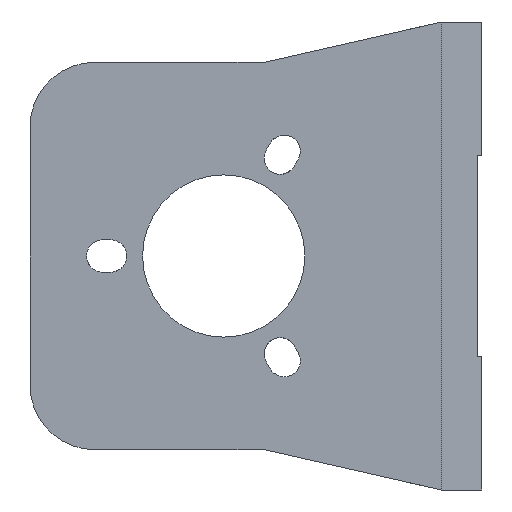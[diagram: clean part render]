
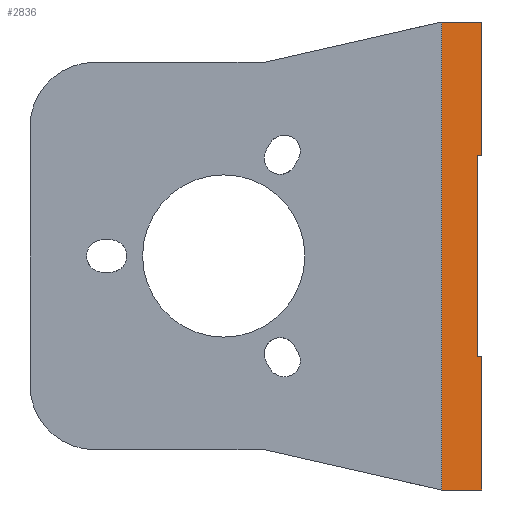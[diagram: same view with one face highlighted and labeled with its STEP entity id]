
A CAD part, front view. The second image highlights one B-rep face of the part: STEP entity #2836.
In plain terms, the highlighted planar face has unit normal (0.707, -0.707, 0).
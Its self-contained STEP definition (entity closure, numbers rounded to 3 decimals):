
#88 = CARTESIAN_POINT ( 'NONE',  ( 0., 5., 29. ) ) ;
#152 = VECTOR ( 'NONE', #677, 1000. ) ;
#159 = CARTESIAN_POINT ( 'NONE',  ( -0.5, 4.5, -12.5 ) ) ;
#181 = EDGE_CURVE ( 'NONE', #2943, #6193, #1040, .T. ) ;
#346 = AXIS2_PLACEMENT_3D ( 'NONE', #2505, #6674, #3105 ) ;
#550 = ORIENTED_EDGE ( 'NONE', *, *, #181, .T. ) ;
#677 = DIRECTION ( 'NONE',  ( -0.707, -0.707, 0. ) ) ;
#921 = EDGE_CURVE ( 'NONE', #7075, #2943, #1146, .T. ) ;
#1001 = CARTESIAN_POINT ( 'NONE',  ( -0.5, 4.5, 12.5 ) ) ;
#1040 = LINE ( 'NONE', #4969, #3832 ) ;
#1146 = LINE ( 'NONE', #2848, #7080 ) ;
#1182 = ORIENTED_EDGE ( 'NONE', *, *, #921, .T. ) ;
#1220 = EDGE_CURVE ( 'NONE', #4309, #4023, #2436, .T. ) ;
#1270 = ORIENTED_EDGE ( 'NONE', *, *, #4836, .T. ) ;
#1332 = EDGE_CURVE ( 'NONE', #2521, #2994, #6243, .T. ) ;
#1435 = CARTESIAN_POINT ( 'NONE',  ( -0.5, 4.5, -12.5 ) ) ;
#1735 = LINE ( 'NONE', #1435, #3110 ) ;
#1746 = LINE ( 'NONE', #88, #152 ) ;
#1971 = EDGE_CURVE ( 'NONE', #2994, #6108, #4104, .T. ) ;
#2174 = DIRECTION ( 'NONE',  ( 0.707, 0.707, 0. ) ) ;
#2254 = CARTESIAN_POINT ( 'NONE',  ( 0., 5., 12.5 ) ) ;
#2256 = VECTOR ( 'NONE', #3514, 1000. ) ;
#2436 = LINE ( 'NONE', #6463, #2256 ) ;
#2439 = ORIENTED_EDGE ( 'NONE', *, *, #1332, .T. ) ;
#2505 = CARTESIAN_POINT ( 'NONE',  ( -2.5, 2.5, 0. ) ) ;
#2521 = VERTEX_POINT ( 'NONE', #1001 ) ;
#2584 = CARTESIAN_POINT ( 'NONE',  ( -5., 0., -29. ) ) ;
#2836 = ADVANCED_FACE ( 'NONE', ( #6288 ), #5495, .T. ) ;
#2848 = CARTESIAN_POINT ( 'NONE',  ( 0., 5., -29. ) ) ;
#2943 = VERTEX_POINT ( 'NONE', #4970 ) ;
#2994 = VERTEX_POINT ( 'NONE', #6329 ) ;
#3104 = ORIENTED_EDGE ( 'NONE', *, *, #7687, .T. ) ;
#3105 = DIRECTION ( 'NONE',  ( 0., 0., -1. ) ) ;
#3110 = VECTOR ( 'NONE', #4384, 1000. ) ;
#3169 = EDGE_LOOP ( 'NONE', ( #3624, #3104, #1182, #550, #1270, #2439, #3482, #7255 ) ) ;
#3292 = VECTOR ( 'NONE', #2174, 1000. ) ;
#3482 = ORIENTED_EDGE ( 'NONE', *, *, #1971, .T. ) ;
#3514 = DIRECTION ( 'NONE',  ( 0., 0., -1. ) ) ;
#3624 = ORIENTED_EDGE ( 'NONE', *, *, #1220, .T. ) ;
#3755 = DIRECTION ( 'NONE',  ( 0.707, 0.707, 0. ) ) ;
#3787 = DIRECTION ( 'NONE',  ( -0.707, -0.707, 0. ) ) ;
#3832 = VECTOR ( 'NONE', #3787, 1000. ) ;
#4023 = VERTEX_POINT ( 'NONE', #2584 ) ;
#4104 = LINE ( 'NONE', #2254, #7065 ) ;
#4309 = VERTEX_POINT ( 'NONE', #5965 ) ;
#4384 = DIRECTION ( 'NONE',  ( 0., 0., 1. ) ) ;
#4533 = CARTESIAN_POINT ( 'NONE',  ( -5., 0., -29. ) ) ;
#4819 = CARTESIAN_POINT ( 'NONE',  ( 0., 5., -29. ) ) ;
#4836 = EDGE_CURVE ( 'NONE', #6193, #2521, #1735, .T. ) ;
#4969 = CARTESIAN_POINT ( 'NONE',  ( 0., 5., -12.5 ) ) ;
#4970 = CARTESIAN_POINT ( 'NONE',  ( 0., 5., -12.5 ) ) ;
#5495 = PLANE ( 'NONE',  #346 ) ;
#5541 = CARTESIAN_POINT ( 'NONE',  ( -0.5, 4.5, 12.5 ) ) ;
#5781 = CARTESIAN_POINT ( 'NONE',  ( 0., 5., 29. ) ) ;
#5820 = DIRECTION ( 'NONE',  ( 0., 0., 1. ) ) ;
#5856 = DIRECTION ( 'NONE',  ( 0., 0., 1. ) ) ;
#5965 = CARTESIAN_POINT ( 'NONE',  ( -5., 0., 29. ) ) ;
#6108 = VERTEX_POINT ( 'NONE', #5781 ) ;
#6193 = VERTEX_POINT ( 'NONE', #159 ) ;
#6243 = LINE ( 'NONE', #5541, #7623 ) ;
#6288 = FACE_OUTER_BOUND ( 'NONE', #3169, .T. ) ;
#6329 = CARTESIAN_POINT ( 'NONE',  ( 0., 5., 12.5 ) ) ;
#6451 = LINE ( 'NONE', #4533, #3292 ) ;
#6463 = CARTESIAN_POINT ( 'NONE',  ( -5., 0., 29. ) ) ;
#6602 = EDGE_CURVE ( 'NONE', #6108, #4309, #1746, .T. ) ;
#6674 = DIRECTION ( 'NONE',  ( 0.707, -0.707, 0. ) ) ;
#7065 = VECTOR ( 'NONE', #5820, 1000. ) ;
#7075 = VERTEX_POINT ( 'NONE', #4819 ) ;
#7080 = VECTOR ( 'NONE', #5856, 1000. ) ;
#7255 = ORIENTED_EDGE ( 'NONE', *, *, #6602, .T. ) ;
#7623 = VECTOR ( 'NONE', #3755, 1000. ) ;
#7687 = EDGE_CURVE ( 'NONE', #4023, #7075, #6451, .T. ) ;
